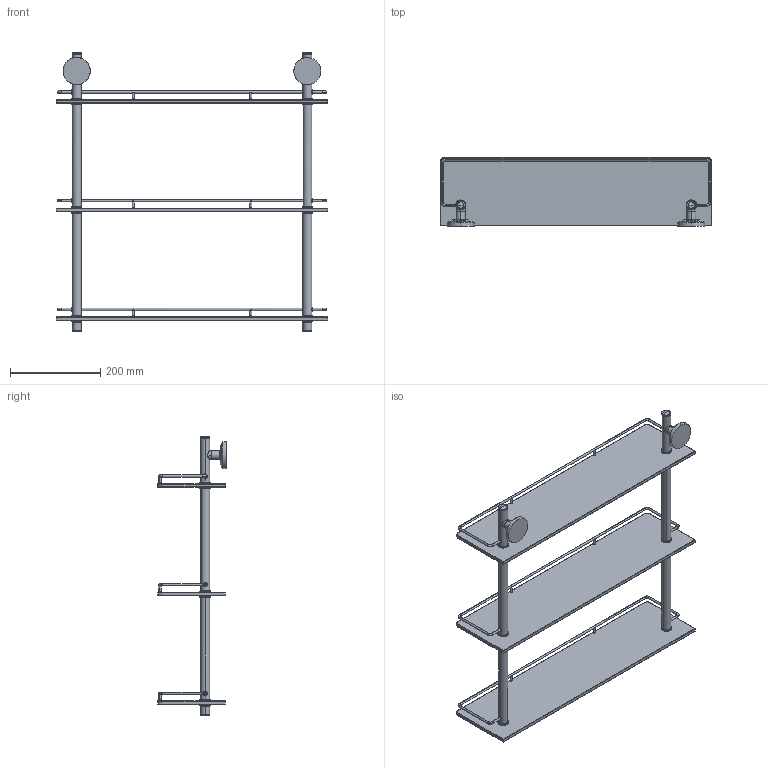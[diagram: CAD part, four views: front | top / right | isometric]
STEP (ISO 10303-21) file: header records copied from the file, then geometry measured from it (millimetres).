
FILE_DESCRIPTION(('THIS FILE CONTAINS SOME STEP INSTANCES'),'1');
FILE_NAME('sta_070.stp','2015-12-09T12:54:27',('UNDEFINED'),('UNDEFINED'),'T-FLEX CAD STEP converter','T-FLEX CAD','');
FILE_SCHEMA(('CONFIG_CONTROL_DESIGN'));
Length unit declared in the file: metre
Products named in the file (8): 砱鋋_23; 砱鋋_24; 砱鋋_27; 3D 鐨飹懤艜_49
Bounding box: 600 x 151.9 x 618.6 mm (x, y, z)
Volume: 2664338.8 mm3; surface area: 714336.7 mm2
Topology: 8 solids, 12 shells, 508 faces, 1265 edges, 785 vertices
Faces by surface type: cylinder 180, plane 102, bspline 82, cone 80, torus 56, sphere 8
Entity records: 37375 total; most frequent: CARTESIAN_POINT 27565, ORIENTED_EDGE 2466, DIRECTION 1402, EDGE_CURVE 1233, VERTEX_POINT 785, EDGE_LOOP 556, AXIS2_PLACEMENT_3D 532, ADVANCED_FACE 508
